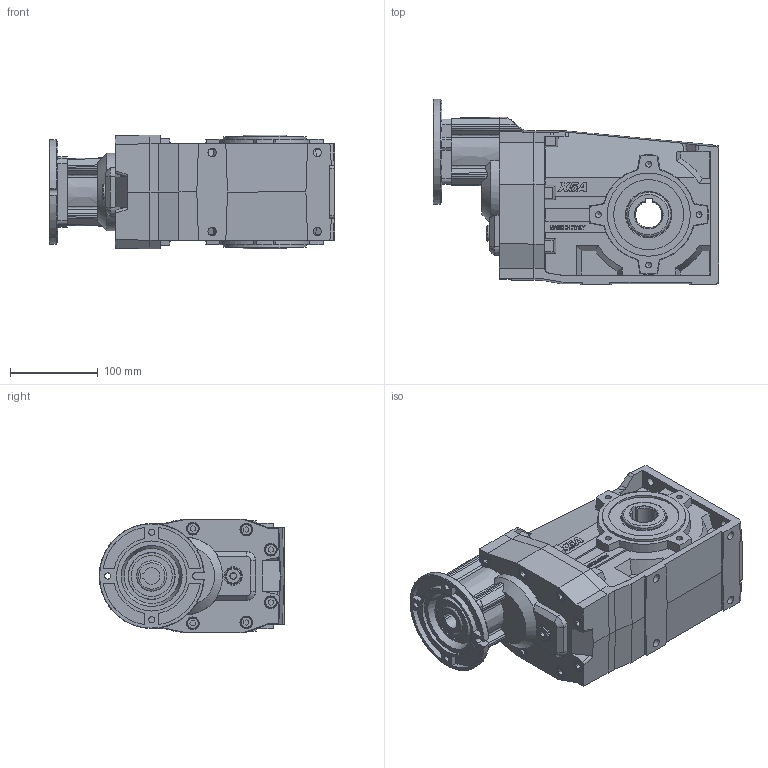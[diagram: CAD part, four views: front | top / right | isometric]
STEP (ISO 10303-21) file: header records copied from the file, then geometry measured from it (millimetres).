
FILE_DESCRIPTION( ( 'Unknown' ), '1' );
FILE_NAME( 'E:/services/configuratordownloads/customers/HYDROMEC/X/download/546AF4F2C1DBFC2029D6560794F3A8C/STEP/546AF4F2C1DBFC2029D6560794F3A8C.3d.stp', 'Unknown', ( 'Unknown' ), ( 'Unknown' ), 'PSStep 10.1', 'Unknown', ' ' );
FILE_SCHEMA( ( 'AUTOMOTIVE_DESIGN { 1 0 10303 214 1 1 1 1 }' ) );
Length unit declared in the file: millimetre
Products named in the file (1): X5A8800
Bounding box: 326 x 211.99 x 130 mm (x, y, z)
Volume: 4802568.6 mm3; surface area: 294124.3 mm2
Topology: 1 solids, 23 shells, 1063 faces, 2695 edges, 1761 vertices
Faces by surface type: plane 751, cone 132, cylinder 126, torus 21, bspline 17, extrusion 16
Full cylindrical faces by diameter (mm): 4.917 x8, 6 x8, 6.647 x16, 7 x3, 9.5 x8, 12 x8, 13 x8, 13.5 x1, 18 x1, 19 x1, 21 x1, 35 x1, 47 x2, 50.05 x2, 80 x3, 95 x2
Entity records: 40824 total; most frequent: CARTESIAN_POINT 8025, ORIENTED_EDGE 4818, DIRECTION 4778, EDGE_CURVE 2409, VECTOR 1724, LINE 1708, VERTEX_POINT 1678, AXIS2_PLACEMENT_3D 1527
